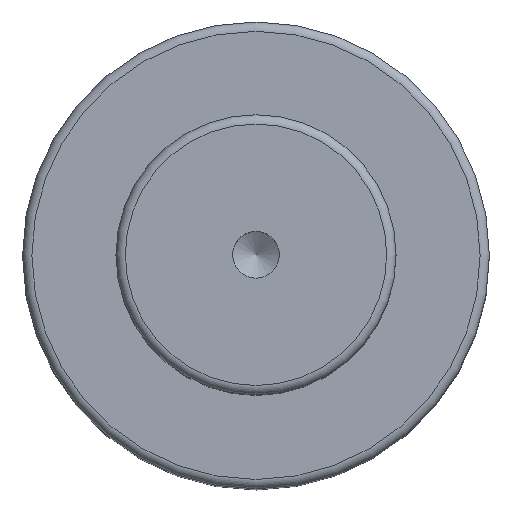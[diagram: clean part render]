
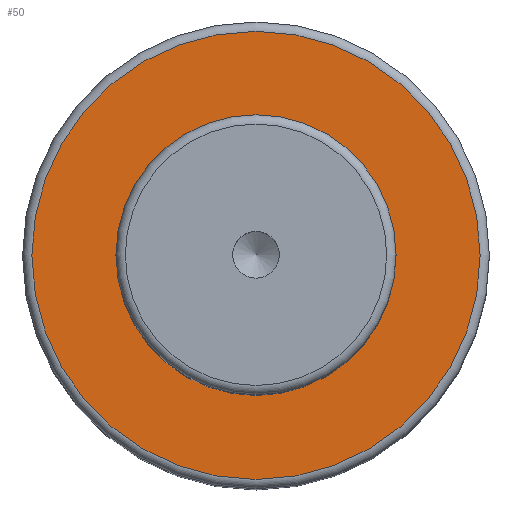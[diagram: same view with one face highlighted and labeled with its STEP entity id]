
A CAD part, top view. The second image highlights one B-rep face of the part: STEP entity #50.
In plain terms, the highlighted planar face has unit normal (0, 0, 1).
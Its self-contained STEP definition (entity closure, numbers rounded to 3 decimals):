
#40=PLANE('',#179);
#50=ADVANCED_FACE('',(#72,#73),#40,.F.);
#72=FACE_BOUND('',#96,.T.);
#73=FACE_BOUND('',#97,.T.);
#96=EDGE_LOOP('',(#118));
#97=EDGE_LOOP('',(#119));
#118=ORIENTED_EDGE('',*,*,#149,.F.);
#119=ORIENTED_EDGE('',*,*,#148,.T.);
#135=VERTEX_POINT('',#256);
#136=VERTEX_POINT('',#259);
#148=EDGE_CURVE('',#135,#135,#159,.T.);
#149=EDGE_CURVE('',#136,#136,#160,.T.);
#159=CIRCLE('',#176,15.);
#160=CIRCLE('',#178,24.);
#176=AXIS2_PLACEMENT_3D('',#255,#213,#214);
#178=AXIS2_PLACEMENT_3D('',#258,#217,#218);
#179=AXIS2_PLACEMENT_3D('',#260,#219,#220);
#213=DIRECTION('',(0.,0.,-1.));
#214=DIRECTION('',(-1.,0.,0.));
#217=DIRECTION('',(0.,0.,-1.));
#218=DIRECTION('',(-1.,0.,0.));
#219=DIRECTION('',(0.,0.,-1.));
#220=DIRECTION('',(-1.,0.,0.));
#255=CARTESIAN_POINT('',(0.,0.,72.));
#256=CARTESIAN_POINT('',(-15.,0.,72.));
#258=CARTESIAN_POINT('',(0.,0.,72.));
#259=CARTESIAN_POINT('',(-24.,0.,72.));
#260=CARTESIAN_POINT('',(15.,0.,72.));
